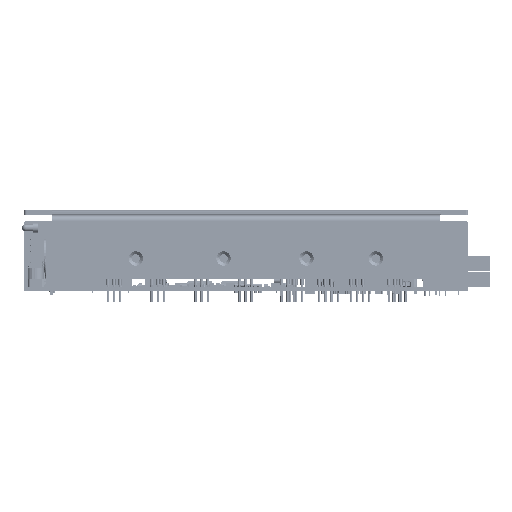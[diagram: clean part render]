
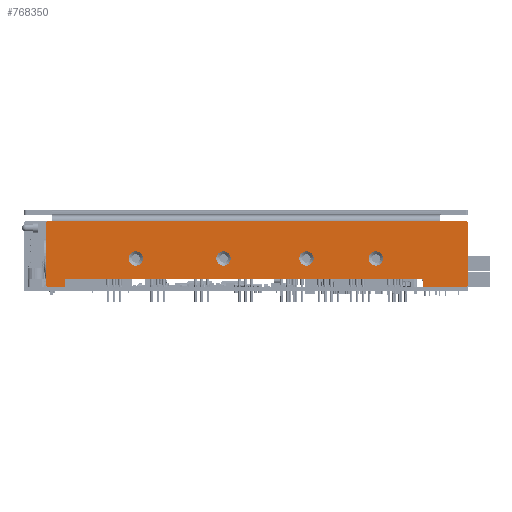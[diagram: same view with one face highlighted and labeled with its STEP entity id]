
A CAD part, left-side view. The second image highlights one B-rep face of the part: STEP entity #768350.
In plain terms, the highlighted planar face has unit normal (-1, 0, 0).
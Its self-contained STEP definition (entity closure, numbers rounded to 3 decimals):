
#765920=CARTESIAN_POINT('',(16.,187.2,-0.5));
#765930=VERTEX_POINT('',#765920);
#766190=CARTESIAN_POINT('',(16.,189.,-0.5));
#766200=DIRECTION('',(0.,-1.,0.));
#766210=VECTOR('',#766200,1.);
#766220=LINE('',#766190,#766210);
#766230=CARTESIAN_POINT('',(16.,189.,-0.5));
#766240=VERTEX_POINT('',#766230);
#766250=EDGE_CURVE('',#766240,#765930,#766220,.T.);
#766410=CARTESIAN_POINT('',(16.,189.,-1.5));
#766420=DIRECTION('',(-1.,0.,0.));
#766430=DIRECTION('',(0.,0.,1.));
#766440=AXIS2_PLACEMENT_3D('',#766410,#766420,#766430);
#766450=CIRCLE('',#766440,1.);
#766460=CARTESIAN_POINT('',(16.,190.,-1.5));
#766470=VERTEX_POINT('',#766460);
#766480=EDGE_CURVE('',#766240,#766470,#766450,.T.);
#766690=CARTESIAN_POINT('',(16.,0.,-17.666));
#766700=DIRECTION('',(-1.,0.,0.));
#766710=DIRECTION('',(0.,0.,1.));
#766720=AXIS2_PLACEMENT_3D('',#766690,#766700,#766710);
#766730=PLANE('',#766720);
#766740=CARTESIAN_POINT('',(16.,24.8,-0.5));
#766750=DIRECTION('',(0.,-1.,0.));
#766760=VECTOR('',#766750,1.);
#766770=LINE('',#766740,#766760);
#766780=CARTESIAN_POINT('',(16.,24.8,-0.5));
#766790=VERTEX_POINT('',#766780);
#766800=CARTESIAN_POINT('',(16.,14.,-0.5));
#766810=VERTEX_POINT('',#766800);
#766820=EDGE_CURVE('',#766790,#766810,#766770,.T.);
#766830=ORIENTED_EDGE('',*,*,#766820,.F.);
#766840=CARTESIAN_POINT('',(16.,14.,-1.5));
#766850=DIRECTION('',(-1.,-0.,0.));
#766860=DIRECTION('',(0.,-1.,0.));
#766870=AXIS2_PLACEMENT_3D('',#766840,#766850,#766860);
#766880=CIRCLE('',#766870,1.);
#766890=CARTESIAN_POINT('',(16.,13.,-1.5));
#766900=VERTEX_POINT('',#766890);
#766910=EDGE_CURVE('',#766900,#766810,#766880,.T.);
#766920=ORIENTED_EDGE('',*,*,#766910,.T.);
#766930=CARTESIAN_POINT('',(16.,13.,-1.5));
#766940=DIRECTION('',(0.,0.,-1.));
#766950=VECTOR('',#766940,1.);
#766960=LINE('',#766930,#766950);
#766970=CARTESIAN_POINT('',(16.,13.,-27.));
#766980=VERTEX_POINT('',#766970);
#766990=EDGE_CURVE('',#766900,#766980,#766960,.T.);
#767000=ORIENTED_EDGE('',*,*,#766990,.F.);
#767010=CARTESIAN_POINT('',(16.,14.,-27.));
#767020=DIRECTION('',(-1.,-0.,-0.));
#767030=DIRECTION('',(0.,0.,-1.));
#767040=AXIS2_PLACEMENT_3D('',#767010,#767020,#767030);
#767050=CIRCLE('',#767040,1.);
#767060=CARTESIAN_POINT('',(16.,14.,-28.));
#767070=VERTEX_POINT('',#767060);
#767080=EDGE_CURVE('',#767070,#766980,#767050,.T.);
#767090=ORIENTED_EDGE('',*,*,#767080,.T.);
#767100=CARTESIAN_POINT('',(16.,32.,-28.));
#767110=DIRECTION('',(0.,-1.,0.));
#767120=VECTOR('',#767110,1.);
#767130=LINE('',#767100,#767120);
#767140=CARTESIAN_POINT('',(16.,32.,-28.));
#767150=VERTEX_POINT('',#767140);
#767160=EDGE_CURVE('',#767150,#767070,#767130,.T.);
#767170=ORIENTED_EDGE('',*,*,#767160,.T.);
#767180=CARTESIAN_POINT('',(16.,32.,-28.));
#767190=DIRECTION('',(0.,0.,1.));
#767200=VECTOR('',#767190,1.);
#767210=LINE('',#767180,#767200);
#767220=CARTESIAN_POINT('',(16.,32.,-24.5));
#767230=VERTEX_POINT('',#767220);
#767240=EDGE_CURVE('',#767150,#767230,#767210,.T.);
#767250=ORIENTED_EDGE('',*,*,#767240,.F.);
#767260=CARTESIAN_POINT('',(16.,32.,-24.5));
#767270=DIRECTION('',(0.,1.,0.));
#767280=VECTOR('',#767270,1.);
#767290=LINE('',#767260,#767280);
#767300=CARTESIAN_POINT('',(16.,182.,-24.5));
#767310=VERTEX_POINT('',#767300);
#767320=EDGE_CURVE('',#767230,#767310,#767290,.T.);
#767330=ORIENTED_EDGE('',*,*,#767320,.F.);
#767340=CARTESIAN_POINT('',(16.,182.,-24.5));
#767350=DIRECTION('',(0.,0.,-1.));
#767360=VECTOR('',#767350,1.);
#767370=LINE('',#767340,#767360);
#767380=CARTESIAN_POINT('',(16.,182.,-28.));
#767390=VERTEX_POINT('',#767380);
#767400=EDGE_CURVE('',#767310,#767390,#767370,.T.);
#767410=ORIENTED_EDGE('',*,*,#767400,.F.);
#767420=CARTESIAN_POINT('',(16.,189.,-28.));
#767430=DIRECTION('',(0.,-1.,0.));
#767440=VECTOR('',#767430,1.);
#767450=LINE('',#767420,#767440);
#767460=CARTESIAN_POINT('',(16.,189.,-28.));
#767470=VERTEX_POINT('',#767460);
#767480=EDGE_CURVE('',#767470,#767390,#767450,.T.);
#767490=ORIENTED_EDGE('',*,*,#767480,.T.);
#767500=CARTESIAN_POINT('',(16.,189.,-27.));
#767510=DIRECTION('',(-1.,0.,0.));
#767520=DIRECTION('',(0.,1.,0.));
#767530=AXIS2_PLACEMENT_3D('',#767500,#767510,#767520);
#767540=CIRCLE('',#767530,1.);
#767550=CARTESIAN_POINT('',(16.,190.,-27.));
#767560=VERTEX_POINT('',#767550);
#767570=EDGE_CURVE('',#767560,#767470,#767540,.T.);
#767580=ORIENTED_EDGE('',*,*,#767570,.T.);
#767590=CARTESIAN_POINT('',(16.,190.,-27.));
#767600=DIRECTION('',(0.,0.,1.));
#767610=VECTOR('',#767600,1.);
#767620=LINE('',#767590,#767610);
#767630=EDGE_CURVE('',#767560,#766470,#767620,.T.);
#767640=ORIENTED_EDGE('',*,*,#767630,.F.);
#767650=ORIENTED_EDGE('',*,*,#766480,.T.);
#767660=ORIENTED_EDGE('',*,*,#766250,.F.);
#767670=CARTESIAN_POINT('',(16.,187.2,-0.5));
#767680=DIRECTION('',(0.,-1.,0.));
#767690=VECTOR('',#767680,1.);
#767700=LINE('',#767670,#767690);
#767710=EDGE_CURVE('',#765930,#766790,#767700,.T.);
#767720=ORIENTED_EDGE('',*,*,#767710,.F.);
#767730=EDGE_LOOP('',(#767720,#767660,#767650,#767640,#767580,#767490,
#767410,#767330,#767250,#767170,#767090,#767000,#766920,#766830));
#767740=FACE_OUTER_BOUND('',#767730,.T.);
#767750=CARTESIAN_POINT('',(16.,152.3,-16.1));
#767760=DIRECTION('',(1.,0.,0.));
#767770=DIRECTION('',(0.,1.,0.));
#767780=AXIS2_PLACEMENT_3D('',#767750,#767760,#767770);
#767790=CIRCLE('',#767780,3.);
#767800=CARTESIAN_POINT('',(16.,155.3,-16.1));
#767810=VERTEX_POINT('',#767800);
#767820=CARTESIAN_POINT('',(16.,149.3,-16.1));
#767830=VERTEX_POINT('',#767820);
#767840=EDGE_CURVE('',#767810,#767830,#767790,.T.);
#767850=ORIENTED_EDGE('',*,*,#767840,.T.);
#767860=EDGE_CURVE('',#767830,#767810,#767790,.T.);
#767870=ORIENTED_EDGE('',*,*,#767860,.T.);
#767880=EDGE_LOOP('',(#767870,#767850));
#767890=FACE_BOUND('',#767880,.T.);
#767900=CARTESIAN_POINT('',(16.,51.7,-16.1));
#767910=DIRECTION('',(1.,0.,0.));
#767920=DIRECTION('',(0.,1.,0.));
#767930=AXIS2_PLACEMENT_3D('',#767900,#767910,#767920);
#767940=CIRCLE('',#767930,3.);
#767950=CARTESIAN_POINT('',(16.,48.7,-16.1));
#767960=VERTEX_POINT('',#767950);
#767970=CARTESIAN_POINT('',(16.,54.7,-16.1));
#767980=VERTEX_POINT('',#767970);
#767990=EDGE_CURVE('',#767960,#767980,#767940,.T.);
#768000=ORIENTED_EDGE('',*,*,#767990,.T.);
#768010=EDGE_CURVE('',#767980,#767960,#767940,.T.);
#768020=ORIENTED_EDGE('',*,*,#768010,.T.);
#768030=EDGE_LOOP('',(#768020,#768000));
#768040=FACE_BOUND('',#768030,.T.);
#768050=CARTESIAN_POINT('',(16.,80.8,-16.1));
#768060=DIRECTION('',(1.,0.,0.));
#768070=DIRECTION('',(0.,1.,0.));
#768080=AXIS2_PLACEMENT_3D('',#768050,#768060,#768070);
#768090=CIRCLE('',#768080,3.);
#768100=CARTESIAN_POINT('',(16.,77.8,-16.1));
#768110=VERTEX_POINT('',#768100);
#768120=CARTESIAN_POINT('',(16.,83.8,-16.1));
#768130=VERTEX_POINT('',#768120);
#768140=EDGE_CURVE('',#768110,#768130,#768090,.T.);
#768150=ORIENTED_EDGE('',*,*,#768140,.T.);
#768160=EDGE_CURVE('',#768130,#768110,#768090,.T.);
#768170=ORIENTED_EDGE('',*,*,#768160,.T.);
#768180=EDGE_LOOP('',(#768170,#768150));
#768190=FACE_BOUND('',#768180,.T.);
#768200=CARTESIAN_POINT('',(16.,115.5,-16.1));
#768210=DIRECTION('',(1.,0.,0.));
#768220=DIRECTION('',(0.,1.,0.));
#768230=AXIS2_PLACEMENT_3D('',#768200,#768210,#768220);
#768240=CIRCLE('',#768230,3.);
#768250=CARTESIAN_POINT('',(16.,112.5,-16.1));
#768260=VERTEX_POINT('',#768250);
#768270=CARTESIAN_POINT('',(16.,118.5,-16.1));
#768280=VERTEX_POINT('',#768270);
#768290=EDGE_CURVE('',#768260,#768280,#768240,.T.);
#768300=ORIENTED_EDGE('',*,*,#768290,.T.);
#768310=EDGE_CURVE('',#768280,#768260,#768240,.T.);
#768320=ORIENTED_EDGE('',*,*,#768310,.T.);
#768330=EDGE_LOOP('',(#768320,#768300));
#768340=FACE_BOUND('',#768330,.T.);
#768350=ADVANCED_FACE('',(#767740,#767890,#768040,#768190,#768340),
#766730,.T.);
